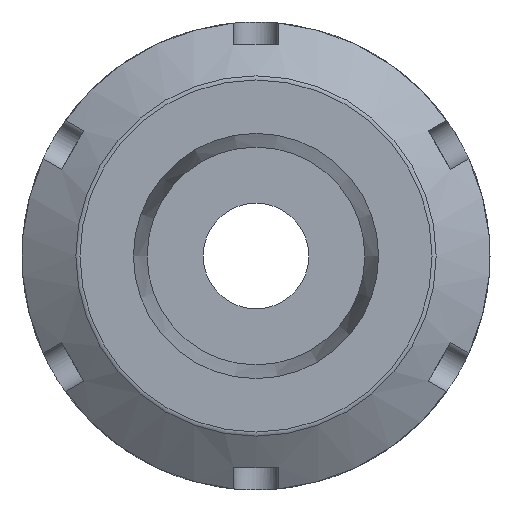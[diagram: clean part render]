
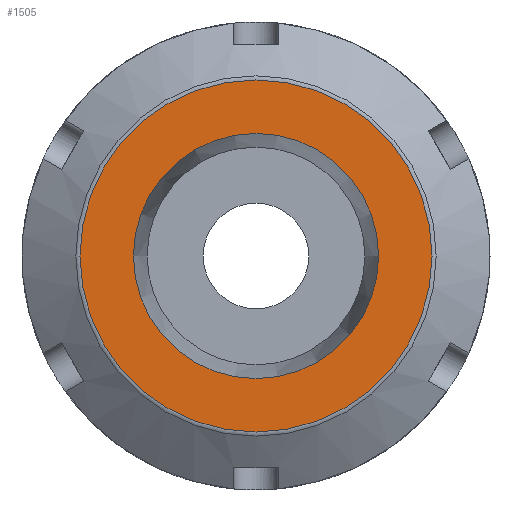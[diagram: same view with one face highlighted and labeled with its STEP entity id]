
A CAD part, front view. The second image highlights one B-rep face of the part: STEP entity #1505.
In plain terms, the highlighted planar face has unit normal (0, -1, 0) as drawn and (0, 1, 0) by its records, which use the part's own axes.
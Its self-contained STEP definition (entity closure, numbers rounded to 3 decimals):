
#352=FACE_BOUND('',#558,.T.);
#389=PLANE('',#1729);
#467=FACE_OUTER_BOUND('',#557,.T.);
#557=EDGE_LOOP('',(#1402));
#558=EDGE_LOOP('',(#1403));
#643=CIRCLE('',#1728,23.697);
#644=CIRCLE('',#1730,16.5);
#785=VERTEX_POINT('',#2818);
#786=VERTEX_POINT('',#2822);
#992=EDGE_CURVE('',#785,#785,#643,.T.);
#993=EDGE_CURVE('',#786,#786,#644,.T.);
#1402=ORIENTED_EDGE('',*,*,#992,.F.);
#1403=ORIENTED_EDGE('',*,*,#993,.T.);
#1505=ADVANCED_FACE('',(#467,#352),#389,.T.);
#1728=AXIS2_PLACEMENT_3D('',#2820,#2122,#2123);
#1729=AXIS2_PLACEMENT_3D('',#2821,#2124,#2125);
#1730=AXIS2_PLACEMENT_3D('',#2823,#2126,#2127);
#2122=DIRECTION('center_axis',(0.,-1.,0.));
#2123=DIRECTION('ref_axis',(-1.,0.,0.));
#2124=DIRECTION('center_axis',(0.,1.,0.));
#2125=DIRECTION('ref_axis',(0.,0.,1.));
#2126=DIRECTION('center_axis',(0.,-1.,0.));
#2127=DIRECTION('ref_axis',(1.,0.,0.));
#2818=CARTESIAN_POINT('',(0.,26.,23.697));
#2820=CARTESIAN_POINT('Origin',(0.,26.,0.));
#2821=CARTESIAN_POINT('Origin',(24.,26.,0.));
#2822=CARTESIAN_POINT('',(-16.5,26.,0.));
#2823=CARTESIAN_POINT('Origin',(0.,26.,0.));
